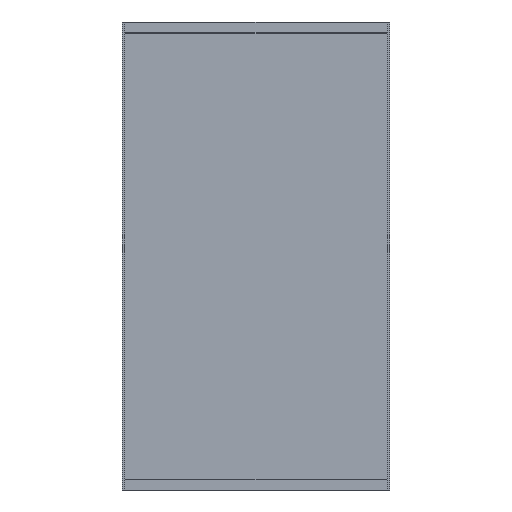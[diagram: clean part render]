
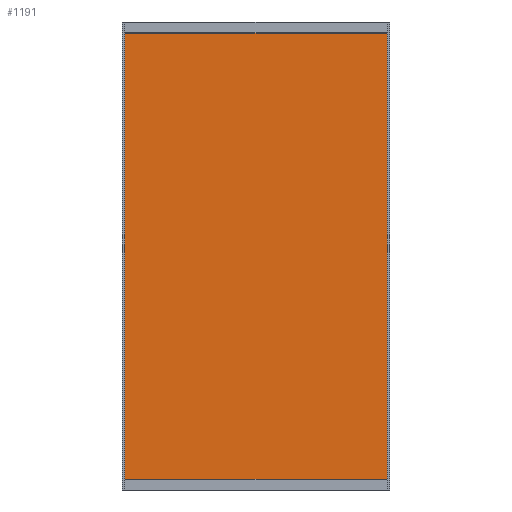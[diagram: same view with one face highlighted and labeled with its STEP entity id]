
A CAD part, front view. The second image highlights one B-rep face of the part: STEP entity #1191.
In plain terms, the highlighted planar face has unit normal (0, -1, 0).
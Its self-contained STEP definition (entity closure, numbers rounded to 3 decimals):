
#66=PLANE('',#1293);
#129=FACE_OUTER_BOUND('',#199,.T.);
#199=EDGE_LOOP('',(#1006,#1007,#1008,#1009));
#319=LINE('',#1857,#457);
#322=LINE('',#1863,#460);
#323=LINE('',#1865,#461);
#324=LINE('',#1866,#462);
#457=VECTOR('',#1539,10.);
#460=VECTOR('',#1544,10.);
#461=VECTOR('',#1545,10.);
#462=VECTOR('',#1546,10.);
#589=VERTEX_POINT('',#1854);
#590=VERTEX_POINT('',#1856);
#592=VERTEX_POINT('',#1862);
#593=VERTEX_POINT('',#1864);
#731=EDGE_CURVE('',#589,#590,#319,.T.);
#734=EDGE_CURVE('',#592,#589,#322,.T.);
#735=EDGE_CURVE('',#593,#592,#323,.T.);
#736=EDGE_CURVE('',#590,#593,#324,.T.);
#1006=ORIENTED_EDGE('',*,*,#734,.F.);
#1007=ORIENTED_EDGE('',*,*,#735,.F.);
#1008=ORIENTED_EDGE('',*,*,#736,.F.);
#1009=ORIENTED_EDGE('',*,*,#731,.F.);
#1191=ADVANCED_FACE('',(#129),#66,.T.);
#1293=AXIS2_PLACEMENT_3D('',#1861,#1542,#1543);
#1539=DIRECTION('',(0.,0.,1.));
#1542=DIRECTION('center_axis',(0.,-1.,0.));
#1543=DIRECTION('ref_axis',(0.,0.,-1.));
#1544=DIRECTION('',(-1.,0.,0.));
#1545=DIRECTION('',(0.,0.,-1.));
#1546=DIRECTION('',(1.,0.,0.));
#1854=CARTESIAN_POINT('',(-198.,-30.75,16.));
#1856=CARTESIAN_POINT('',(-198.,-30.75,683.));
#1857=CARTESIAN_POINT('',(-198.,-30.75,683.));
#1861=CARTESIAN_POINT('Origin',(0.,-30.75,683.));
#1862=CARTESIAN_POINT('',(198.,-30.75,16.));
#1863=CARTESIAN_POINT('',(0.,-30.75,16.));
#1864=CARTESIAN_POINT('',(198.,-30.75,683.));
#1865=CARTESIAN_POINT('',(198.,-30.75,683.));
#1866=CARTESIAN_POINT('',(0.,-30.75,683.));
